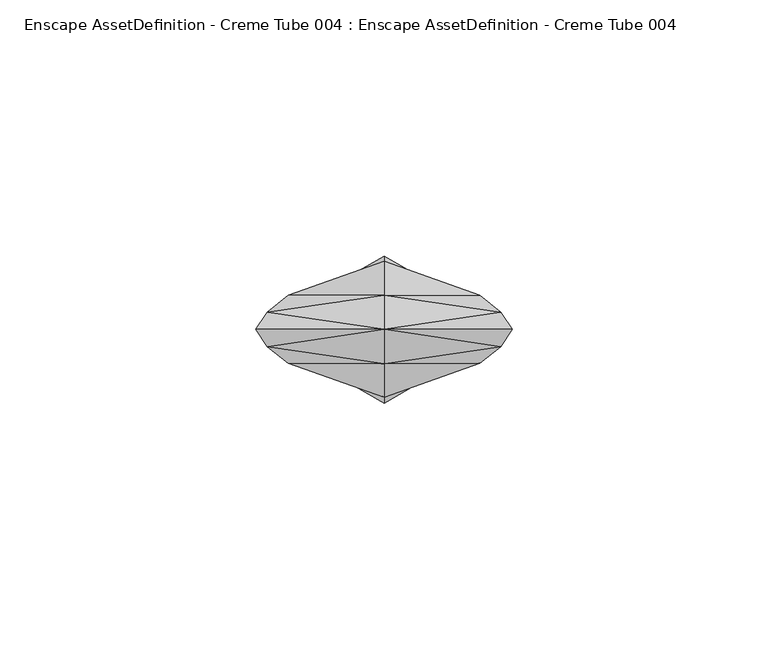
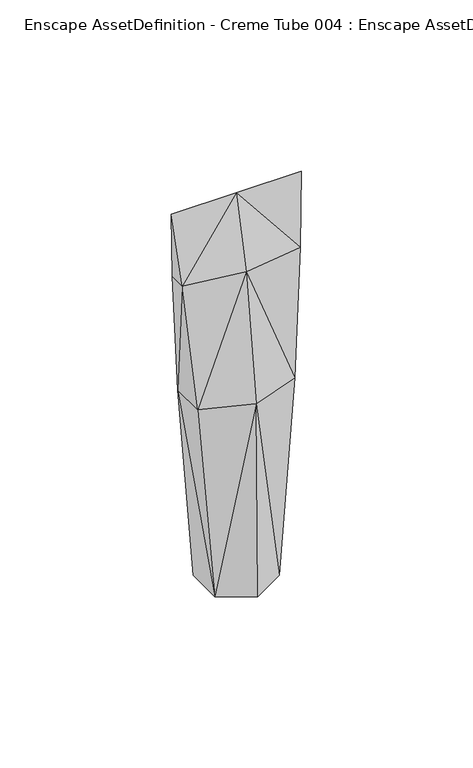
"""IFC4 building model written with IfcOpenShell, lengths in millimetres: geographic element geometry, Enscape AssetDefinition - Creme Tube 004 : Enscape AssetDefinition - Creme Tube 004."""

from ifc_helpers import new_model, si_unit, origin, place, context, project, spatial, faceted_brep, source, transform, mapped, element, save


def enscape_assetdefinition_creme_tube_004_enscape_ba9f0d03(model_context):
    return source(origin(), model_context, "Body", "Brep", [
        faceted_brep([(-25.037, 0.0, 155.8669955), (-22.7659997, -3.359, 127.7749985), (0.0, 0.0, 155.8669955), (-22.7659997, 3.359, 127.7749985), (-18.7369995, 6.6439998, 77.9329985), (-18.7369995, -6.6439998, 77.9329985), (0.0, -6.7170002, 127.7749985), (0.0, 6.7170002, 127.7749985), (-12.4369999, 7.181, 0.0), (-12.4369999, -7.181, 0.0), (0.0, 13.2879997, 77.9329985), (0.0, -13.2879997, 77.9329985), (22.7659997, -3.359, 127.7749985), (18.7369995, -6.6439998, 77.9329985), (0.0, -14.3619999, 0.0), (12.4369999, -7.181, 0.0), (0.0, 14.3619999, 0.0), (12.4369999, 7.181, 0.0), (18.7369995, 6.6439998, 77.9329985), (22.7659997, 3.359, 127.7749985), (25.037, 0.0, 155.8669955)], [[[0, 1, 2]], [[0, 3, 1]], [[3, 4, 1]], [[1, 5, 6]], [[2, 1, 6]], [[1, 4, 5]], [[2, 3, 0]], [[7, 3, 2]], [[7, 4, 3]], [[8, 9, 4]], [[10, 4, 7]], [[4, 9, 5]], [[10, 8, 4]], [[5, 9, 11]], [[6, 5, 11]], [[6, 12, 2]], [[11, 13, 6]], [[6, 13, 12]], [[14, 15, 11]], [[11, 15, 13]], [[11, 9, 14]], [[9, 15, 14]], [[15, 9, 8]], [[16, 8, 10]], [[15, 8, 16]], [[15, 17, 13]], [[15, 16, 17]], [[13, 18, 12]], [[13, 17, 18]], [[18, 17, 10]], [[10, 17, 16]], [[7, 18, 10]], [[19, 18, 7]], [[12, 18, 19]], [[20, 12, 19]], [[2, 12, 20]], [[20, 19, 2]], [[2, 19, 7]]]),
    ])


if __name__ == "__main__":
    model = new_model("IFC4")
    model_context = context("Model", 3, world=origin())
    ifc_project = project(units=[si_unit("LENGTHUNIT", "METRE", prefix="MILLI")], contexts=[model_context])
    site = spatial("IfcSite", under=ifc_project)
    building = spatial("IfcBuilding", under=site)
    placement = place(None, origin())
    enscape_assetdefinition_creme_tube_004_enscape_shape = enscape_assetdefinition_creme_tube_004_enscape_ba9f0d03(model_context)
    element("IfcGeographicElement", 1, ObjectType="Enscape AssetDefinition - Creme Tube 004 : Enscape AssetDefinition - Creme Tube 004", at=placement, inside=building, context=model_context, shape_type="MappedRepresentation", body=[
        mapped(enscape_assetdefinition_creme_tube_004_enscape_shape, transform((0.0, 0.0, 0.0), x_axis=(1.0, 0.0, 0.0), y_axis=(0.0, 1.0, 0.0), z_axis=(0.0, 0.0, 1.0))),
    ])
    save(model, "model.ifc")
